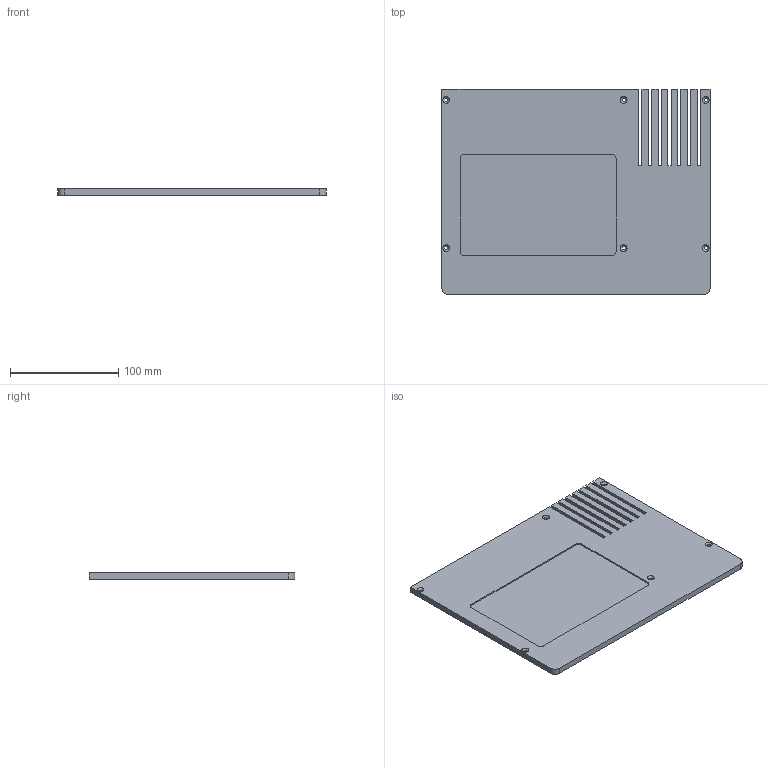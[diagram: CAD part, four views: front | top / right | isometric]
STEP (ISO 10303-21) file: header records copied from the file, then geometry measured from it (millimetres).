
FILE_DESCRIPTION(('Open CASCADE Model'),'2;1');
FILE_NAME('Open CASCADE Shape Model','2026-11-07T14:08:16',('Author'),( 'Open CASCADE'),'Open CASCADE STEP processor 7.9','Open CASCADE 7.9' ,'Unknown');
FILE_SCHEMA(('AUTOMOTIVE_DESIGN { 1 0 10303 214 1 1 1 1 }'));
Length unit declared in the file: millimetre
Products named in the file (1): Open CASCADE STEP translator 7.9 25
Bounding box: 248 x 189.8 x 5.7 mm (x, y, z)
Volume: 135434.1 mm3; surface area: 100839.8 mm2
Topology: 1 solids, 1 shells, 65 faces, 192 edges, 126 vertices
Faces by surface type: plane 47, cylinder 12, cone 6
Full cylindrical faces by diameter (mm): 3.3 x6
Entity records: 4546 total; most frequent: CARTESIAN_POINT 1070, DIRECTION 534, ORIENTED_EDGE 384, PCURVE 384, DEFINITIONAL_REPRESENTATION 384, LINE 312, VECTOR 312, B_SPLINE_CURVE_WITH_KNOTS 194
